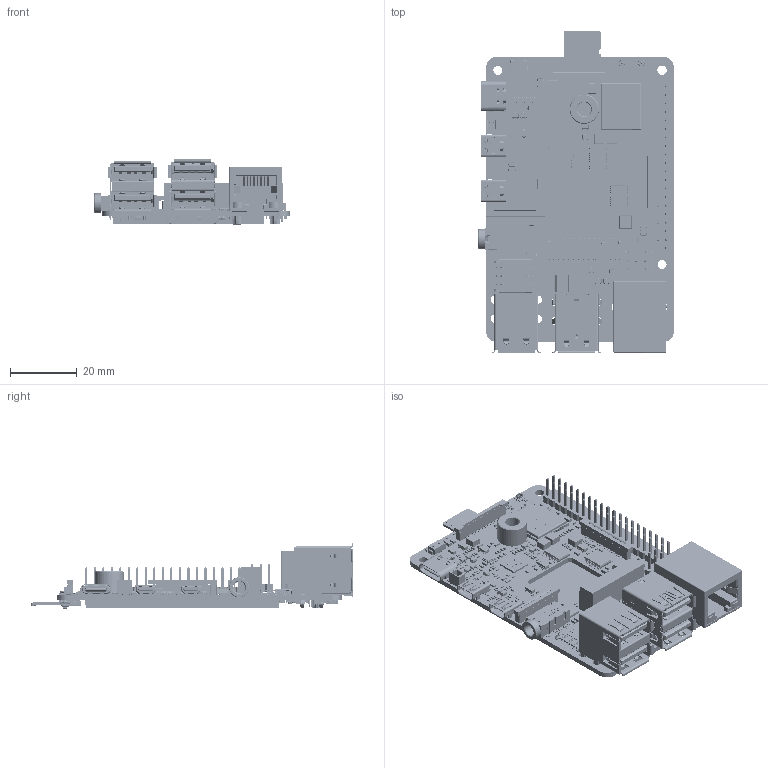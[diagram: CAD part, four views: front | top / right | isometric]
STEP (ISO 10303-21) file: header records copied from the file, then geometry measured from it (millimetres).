
FILE_DESCRIPTION(('Open CASCADE Model'),'2;1');
FILE_NAME('Open CASCADE Shape Model','2025-05-16T18:18:47',('Author'),( 'Open CASCADE'),'Open CASCADE STEP processor 6.8','Open CASCADE 6.8' ,'Unknown');
FILE_SCHEMA(('AUTOMOTIVE_DESIGN { 1 0 10303 214 1 1 1 1 }'));
Length unit declared in the file: millimetre
Products named in the file (457): PCB; Board; Open CASCADE STEP translator 6.8 1.1.1; A1; IPEX-001; MICRO-RFB01-S00-02; MICRO-RFB01-H00-02; MICRO-RFB01-T00-03; A2; C100; C0402; C101; C102; C103; C104; cap0603; C105; C106; C107; C109; C111; C112; C113; C114; C115; C116; C117; C118; C119; C122; C123; C124; C125; C127; C128; C129; C130; C131; C133; C135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
Assembly tree (769 placements, depth 4):
  PCB
    Board
      Open CASCADE STEP translator 6.8 1.1.1
    A1
      IPEX-001
        MICRO-RFB01-S00-02
        MICRO-RFB01-H00-02
        MICRO-RFB01-T00-03
    A2
      IPEX-001
        MICRO-RFB01-S00-02
        MICRO-RFB01-H00-02
        MICRO-RFB01-T00-03
    C100
      C0402
    C101
      C0402
    C102
      C0402
    C103
      C0402
    C104
      cap0603
    C105
      C0402
    C106
      cap0603
    C107
      cap0603
    C109
      C0402
    C111
      C0402
    C112
      C0402
    C113
      C0402
    C114
      C0402
    C115
      C0402
    C116
      C0402
    C117
      cap0603
    C118
      cap0603
    C119
      C0402
    C122
      C0402
    C123
      C0402
    C124
      cap0603
    C125
      cap0603
    C127
      C0402
    C128
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Bounding box: 58.37 x 96.41 x 19.51 mm (x, y, z)
Volume: 24858.5 mm3; surface area: 36411.7 mm2
Topology: 642 solids, 643 shells, 31997 faces, 84022 edges, 54338 vertices
Faces by surface type: plane 19609, bspline 7369, cylinder 4492, sphere 400, torus 72, cone 55
Full cylindrical faces by diameter (mm): 0.6 x2, 0.7 x13, 0.75 x1, 0.888 x8, 0.89 x14, 0.95 x1, 1 x41, 1.02 x4, 1.1 x1, 1.3 x2, 1.6 x1, 2.7 x2, 2.8 x1, 3.25 x2, 3.75 x1
Entity records: 525981 total; most frequent: CARTESIAN_POINT 133528, ORIENTED_EDGE 79430, DIRECTION 68813, EDGE_CURVE 39721, LINE 31633, VECTOR 31633, VERTEX_POINT 25809, AXIS2_PLACEMENT_3D 18590
